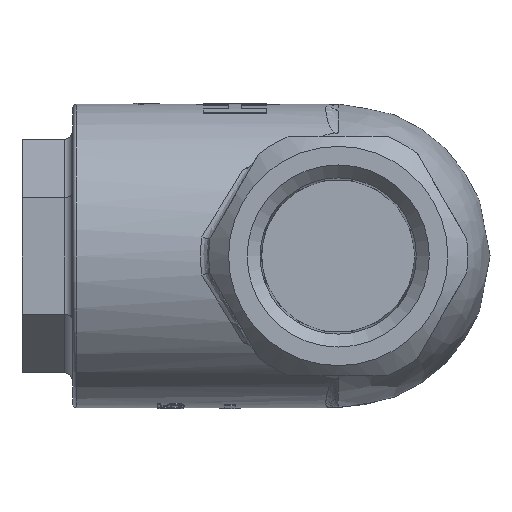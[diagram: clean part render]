
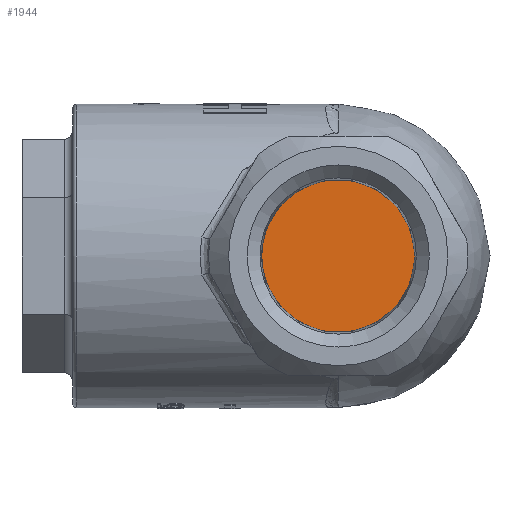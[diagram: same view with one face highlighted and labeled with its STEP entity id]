
A CAD part, left-side view. The second image highlights one B-rep face of the part: STEP entity #1944.
In plain terms, the highlighted planar face has unit normal (-1, 0, 0).
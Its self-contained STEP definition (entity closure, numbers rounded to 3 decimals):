
#1928=CARTESIAN_POINT('',(-51.3,-4.529,0.0));
#1929=DIRECTION('',(-1.0,0.0,0.0));
#1930=DIRECTION('',(0.0,0.0,1.0));
#1931=AXIS2_PLACEMENT_3D('',#1928,#1929,#1930);
#1932=PLANE('',#1931);
#1933=CARTESIAN_POINT('',(-51.3,-9.06,0.0));
#1934=VERTEX_POINT('',#1933);
#1935=CARTESIAN_POINT('',(-51.3,0.,0.0));
#1936=DIRECTION('',(-1.0,0.0,0.0));
#1937=DIRECTION('',(0.0,-1.0,0.0));
#1938=AXIS2_PLACEMENT_3D('',#1935,#1936,#1937);
#1939=CIRCLE('',#1938,9.06);
#1940=EDGE_CURVE('',#1934,#1934,#1939,.T.);
#1941=ORIENTED_EDGE('',*,*,#1940,.T.);
#1942=EDGE_LOOP('',(#1941));
#1943=FACE_OUTER_BOUND('',#1942,.T.);
#1944=ADVANCED_FACE('',(#1943),#1932,.T.);
